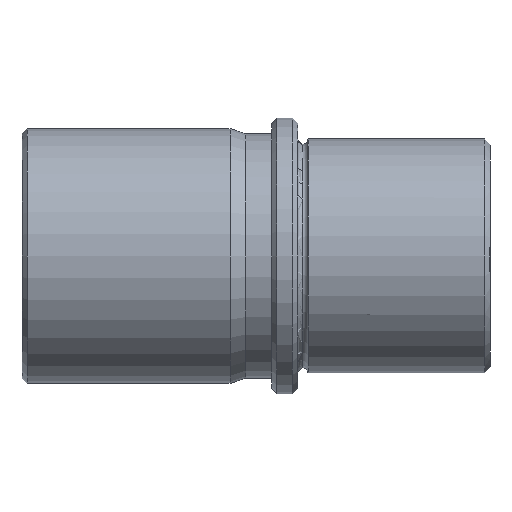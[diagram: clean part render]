
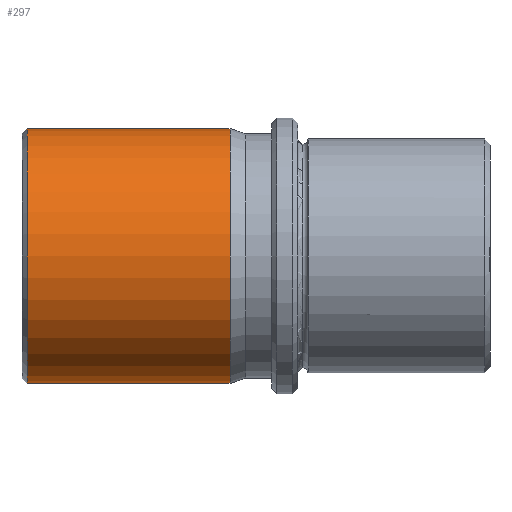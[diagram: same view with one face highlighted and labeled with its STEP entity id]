
A CAD part, left-side view. The second image highlights one B-rep face of the part: STEP entity #297.
In plain terms, the highlighted cylindrical face has radius 24.5 mm (diameter 49 mm), a partial arc.
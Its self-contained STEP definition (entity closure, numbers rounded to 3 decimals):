
#155=CARTESIAN_POINT('Vertex',(0.,50.,-24.5)) ;
#162=CARTESIAN_POINT('Vertex',(0.,50.,24.5)) ;
#165=CARTESIAN_POINT('Axis2P3D Location',(0.,50.,0.)) ;
#169=CARTESIAN_POINT('Vertex',(-24.5,50.,0.)) ;
#172=CARTESIAN_POINT('Axis2P3D Location',(0.,50.,0.)) ;
#258=CARTESIAN_POINT('Axis2P3D Location',(0.,0.,0.)) ;
#263=CARTESIAN_POINT('Line Origine',(0.,0.,24.5)) ;
#267=CARTESIAN_POINT('Vertex',(0.,89.,24.5)) ;
#270=CARTESIAN_POINT('Axis2P3D Location',(0.,89.,0.)) ;
#274=CARTESIAN_POINT('Vertex',(-24.5,89.,0.)) ;
#277=CARTESIAN_POINT('Axis2P3D Location',(0.,89.,0.)) ;
#281=CARTESIAN_POINT('Vertex',(0.,89.,-24.5)) ;
#284=CARTESIAN_POINT('Line Origine',(0.,0.,-24.5)) ;
#166=DIRECTION('Axis2P3D Direction',(-0.,1.,0.)) ;
#173=DIRECTION('Axis2P3D Direction',(-0.,1.,0.)) ;
#259=DIRECTION('Axis2P3D Direction',(0.,1.,0.)) ;
#260=DIRECTION('Axis2P3D XDirection',(0.,0.,-1.)) ;
#264=DIRECTION('Vector Direction',(0.,1.,0.)) ;
#271=DIRECTION('Axis2P3D Direction',(0.,1.,0.)) ;
#278=DIRECTION('Axis2P3D Direction',(0.,1.,0.)) ;
#285=DIRECTION('Vector Direction',(0.,1.,0.)) ;
#167=AXIS2_PLACEMENT_3D('Circle Axis2P3D',#165,#166,$) ;
#174=AXIS2_PLACEMENT_3D('Circle Axis2P3D',#172,#173,$) ;
#261=AXIS2_PLACEMENT_3D('Cylinder Axis2P3D',#258,#259,#260) ;
#272=AXIS2_PLACEMENT_3D('Circle Axis2P3D',#270,#271,$) ;
#279=AXIS2_PLACEMENT_3D('Circle Axis2P3D',#277,#278,$) ;
#290=ORIENTED_EDGE('',*,*,#269,.T.) ;
#291=ORIENTED_EDGE('',*,*,#276,.T.) ;
#292=ORIENTED_EDGE('',*,*,#283,.T.) ;
#293=ORIENTED_EDGE('',*,*,#288,.T.) ;
#294=ORIENTED_EDGE('',*,*,#176,.F.) ;
#295=ORIENTED_EDGE('',*,*,#171,.F.) ;
#265=VECTOR('Line Direction',#264,1.) ;
#286=VECTOR('Line Direction',#285,1.) ;
#297=ADVANCED_FACE('CF 450 32x90',(#296),#262,.T.) ;
#168=CIRCLE('generated circle',#167,24.5) ;
#175=CIRCLE('generated circle',#174,24.5) ;
#273=CIRCLE('generated circle',#272,24.5) ;
#280=CIRCLE('generated circle',#279,24.5) ;
#262=CYLINDRICAL_SURFACE('generated cylinder',#261,24.5) ;
#171=EDGE_CURVE('',#163,#170,#168,.F.) ;
#176=EDGE_CURVE('',#170,#156,#175,.F.) ;
#269=EDGE_CURVE('',#163,#268,#266,.T.) ;
#276=EDGE_CURVE('',#268,#275,#273,.F.) ;
#283=EDGE_CURVE('',#275,#282,#280,.F.) ;
#288=EDGE_CURVE('',#282,#156,#287,.F.) ;
#289=EDGE_LOOP('',(#290,#291,#292,#293,#294,#295)) ;
#296=FACE_OUTER_BOUND('',#289,.T.) ;
#266=LINE('Line',#263,#265) ;
#287=LINE('Line',#284,#286) ;
#156=VERTEX_POINT('',#155) ;
#163=VERTEX_POINT('',#162) ;
#170=VERTEX_POINT('',#169) ;
#268=VERTEX_POINT('',#267) ;
#275=VERTEX_POINT('',#274) ;
#282=VERTEX_POINT('',#281) ;
